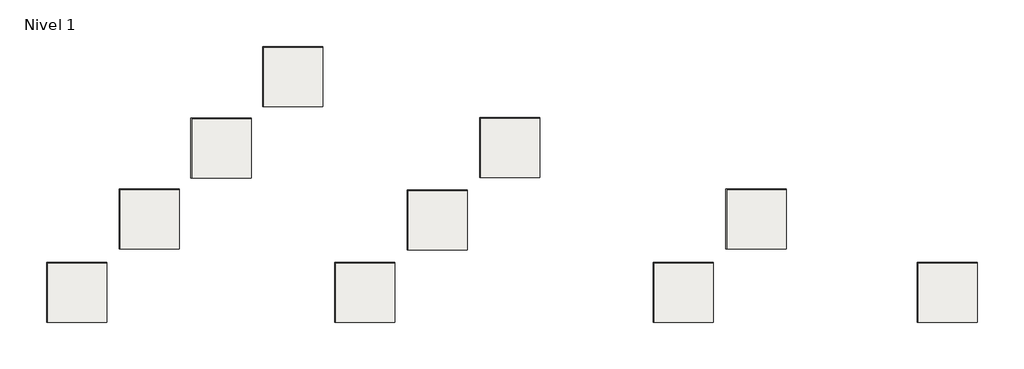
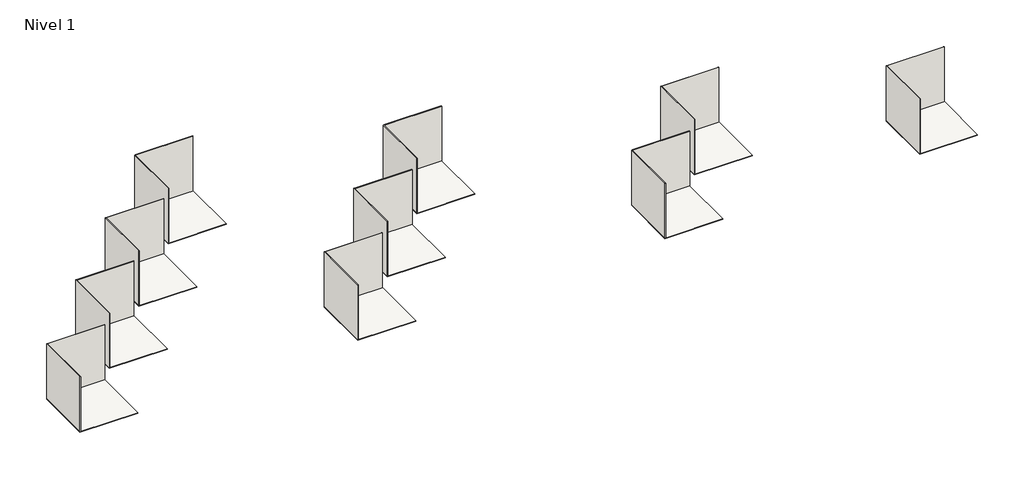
# One storey: 20 walls, 10 slabs.
"""IFC4 building model written with IfcOpenShell, lengths in millimetres."""

from ifc_helpers import new_model, si_unit, frame, origin, origin_with_axes, place, context, project, spatial, polyline, outline, extrude, faceted_brep, element, save

model = new_model("IFC4")

# Units and contexts
model_context = context("Model", 3, world=origin())
ifc_project = project(units=[si_unit("LENGTHUNIT", "METRE", prefix="MILLI")], contexts=[model_context])

# Site, building, storey
site = spatial("IfcSite", under=ifc_project)
building = spatial("IfcBuilding", under=site)
storey = spatial("IfcBuildingStorey", under=building, Name="Nivel 1", Elevation=0.0)

# Slabs
placement = place(None, origin())
element("IfcSlab", 1, ObjectType="Pieza 310BH_Patrón Recto_Mistery_White_Liso", at=placement, inside=storey, context=model_context, shape_type="SweptSolid", body=[
    extrude(outline(polyline([(6563.3191427, 6255.8406123), (6563.3191427, 5255.8406123), (5563.3191427, 5255.8406123), (5563.3191427, 6255.8406123), (6563.3191427, 6255.8406123)])), frame((0.0, 0.0, -9.0), z_axis=(0.0, 0.0, 1.0), x_axis=(1.0, 0.0, 0.0)), (0.0, 0.0, 1.0), 9.0),
])
element("IfcSlab", 2, ObjectType="Pieza 310BH_Patrón Recto_Mistery_Sand_Liso", at=placement, inside=storey, context=model_context, shape_type="SweptSolid", body=[
    extrude(outline(polyline([(7772.2583478, 6477.5842266), (6772.2583478, 6477.5842266), (6772.2583478, 7477.5842266), (7772.2583478, 7477.5842266), (7772.2583478, 6477.5842266)])), frame((0.0, 0.0, -9.0), z_axis=(0.0, 0.0, 1.0), x_axis=(1.0, 0.0, 0.0)), (0.0, 0.0, 1.0), 9.0),
])
element("IfcSlab", 3, ObjectType="Pieza 310BH_Patrón Recto_Mistery_Grey_Liso", at=placement, inside=storey, context=model_context, shape_type="SweptSolid", body=[
    extrude(outline(polyline([(8967.4821988, 8660.0036684), (8967.4821988, 7660.0036684), (7967.4821988, 7660.0036684), (7967.4821988, 8660.0036684), (8967.4821988, 8660.0036684)])), frame((0.0, 0.0, -9.0), z_axis=(0.0, 0.0, 1.0), x_axis=(1.0, 0.0, 0.0)), (0.0, 0.0, 1.0), 9.0),
])
element("IfcSlab", 4, ObjectType="Pieza 310BH_Patrón Recto_Mistery_Blue Stone_Liso", at=placement, inside=storey, context=model_context, shape_type="SweptSolid", body=[
    extrude(outline(polyline([(10162.7060498, 9855.2275194), (10162.7060498, 8855.2275194), (9162.7060498, 8855.2275194), (9162.7060498, 9855.2275194), (10162.7060498, 9855.2275194)])), frame((0.0, 0.0, -9.0), z_axis=(0.0, 0.0, 1.0), x_axis=(1.0, 0.0, 0.0)), (0.0, 0.0, 1.0), 9.0),
])
element("IfcSlab", 5, ObjectType="Pieza 310BH_Patrón Recto_Pietro_Grey_Liso", at=placement, inside=storey, context=model_context, shape_type="SweptSolid", body=[
    extrude(outline(polyline([(11357.9299008, 6255.8406123), (11357.9299008, 5255.8406123), (10357.9299008, 5255.8406123), (10357.9299008, 6255.8406123), (11357.9299008, 6255.8406123)])), frame((0.0, 0.0, -9.0), z_axis=(0.0, 0.0, 1.0), x_axis=(1.0, 0.0, 0.0)), (0.0, 0.0, 1.0), 9.0),
])
element("IfcSlab", 6, ObjectType="Pieza 310BH_Patrón Recto_Pietro_White_Anti-Slip", at=placement, inside=storey, context=model_context, shape_type="SweptSolid", body=[
    extrude(outline(polyline([(12566.8691058, 7464.7798174), (12566.8691058, 6464.7798174), (11566.8691058, 6464.7798174), (11566.8691058, 7464.7798174), (12566.8691058, 7464.7798174)])), frame((0.0, 0.0, -9.0), z_axis=(0.0, 0.0, 1.0), x_axis=(1.0, 0.0, 0.0)), (0.0, 0.0, 1.0), 9.0),
])
element("IfcSlab", 7, ObjectType="Pieza 310BH_Patrón Recto_Tresor_Bali_Anti-Slip", at=placement, inside=storey, context=model_context, shape_type="SweptSolid", body=[
    extrude(outline(polyline([(16663.3191427, 6255.8406123), (16663.3191427, 5255.8406123), (15663.3191427, 5255.8406123), (15663.3191427, 6255.8406123), (16663.3191427, 6255.8406123)])), frame((0.0, 0.0, -9.0), z_axis=(0.0, 0.0, 1.0), x_axis=(1.0, 0.0, 0.0)), (0.0, 0.0, 1.0), 9.0),
])
element("IfcSlab", 8, ObjectType="Pieza 310BH_Patrón Recto_Tresor_Java_Anti-Slip", at=placement, inside=storey, context=model_context, shape_type="SweptSolid", body=[
    extrude(outline(polyline([(17872.2583478, 6477.5842266), (16872.2583478, 6477.5842266), (16872.2583478, 7477.5842266), (17872.2583478, 7477.5842266), (17872.2583478, 6477.5842266)])), frame((0.0, 0.0, -9.0), z_axis=(0.0, 0.0, 1.0), x_axis=(1.0, 0.0, 0.0)), (0.0, 0.0, 1.0), 9.0),
])
element("IfcSlab", 9, ObjectType="Pieza 310BH_Patrón Recto_Tao_Beige_Liso", at=placement, inside=storey, context=model_context, shape_type="SweptSolid", body=[
    extrude(outline(polyline([(21057.9299008, 6255.8406123), (21057.9299008, 5255.8406123), (20057.9299008, 5255.8406123), (20057.9299008, 6255.8406123), (21057.9299008, 6255.8406123)])), frame((0.0, 0.0, -9.0), z_axis=(0.0, 0.0, 1.0), x_axis=(1.0, 0.0, 0.0)), (0.0, 0.0, 1.0), 9.0),
])
element("IfcSlab", 10, ObjectType="Pieza 310BH_Patrón Recto_Pietro_Golden_Liso", at=placement, inside=storey, context=model_context, shape_type="SweptSolid", body=[
    extrude(outline(polyline([(13775.8083108, 8673.7190224), (13775.8083108, 7673.7190224), (12775.8083108, 7673.7190224), (12775.8083108, 8673.7190224), (13775.8083108, 8673.7190224)])), frame((0.0, 0.0, -9.0), z_axis=(0.0, 0.0, 1.0), x_axis=(1.0, 0.0, 0.0)), (0.0, 0.0, 1.0), 9.0),
])

# Walls
element("IfcWall", 11, ObjectType="Pieza 310BH_Patrón Recto_Mistery_Blue Stone_Liso", at=placement, inside=storey, context=model_context, shape_type="Brep", body=[
    faceted_brep([(9171.7060498, 8855.2275194, 0.0), (9171.7060498, 9846.2275194, 0.0), (9171.7060498, 9855.2275194, 0.0), (9171.7060498, 9855.2275194, 1000.0), (9171.7060498, 9846.2275194, 1000.0), (9171.7060498, 8855.2275194, 1000.0), (9162.7060498, 8855.2275194, 0.0), (9162.7060498, 8855.2275194, 1000.0), (9162.7060498, 9855.2275194, 1000.0), (9162.7060498, 9855.2275194, 0.0)], [[[0, 1, 2, 3, 4, 5]], [[6, 7, 8, 9]], [[2, 1, 0, 6, 9]], [[5, 4, 3, 8, 7]], [[0, 5, 7, 6]], [[3, 2, 9, 8]]]),
])
element("IfcWall", 12, ObjectType="Pieza 310BH_Patrón Recto_Mistery_Blue Stone_Liso", at=placement, inside=storey, context=model_context, shape_type="SweptSolid", body=[
    extrude(outline(polyline([(10162.7060498, 9846.2275194), (9171.7060498, 9846.2275194), (9171.7060498, 9855.2275194), (10162.7060498, 9855.2275194), (10162.7060498, 9846.2275194)])), origin_with_axes(), (0.0, 0.0, 1.0), 1000.0),
])
element("IfcWall", 13, ObjectType="Pieza 310BH_Patrón Recto_Mistery_Grey_Liso", at=placement, inside=storey, context=model_context, shape_type="Brep", body=[
    faceted_brep([(7976.4821988, 7660.0036684, 0.0), (7976.4821988, 8651.0036684, 0.0), (7976.4821988, 8660.0036684, 0.0), (7976.4821988, 8660.0036684, 1000.0), (7976.4821988, 8651.0036684, 1000.0), (7976.4821988, 7660.0036684, 1000.0), (7967.4821988, 7660.0036684, 0.0), (7967.4821988, 7660.0036684, 1000.0), (7967.4821988, 8660.0036684, 1000.0), (7967.4821988, 8660.0036684, 0.0)], [[[0, 1, 2, 3, 4, 5]], [[6, 7, 8, 9]], [[2, 1, 0, 6, 9]], [[5, 4, 3, 8, 7]], [[0, 5, 7, 6]], [[3, 2, 9, 8]]]),
])
element("IfcWall", 14, ObjectType="Pieza 310BH_Patrón Recto_Mistery_Grey_Liso", at=placement, inside=storey, context=model_context, shape_type="SweptSolid", body=[
    extrude(outline(polyline([(8967.4821988, 8651.0036684), (7976.4821988, 8651.0036684), (7976.4821988, 8660.0036684), (8967.4821988, 8660.0036684), (8967.4821988, 8651.0036684)])), origin_with_axes(), (0.0, 0.0, 1.0), 1000.0),
])
element("IfcWall", 15, ObjectType="Pieza 310BH_Patrón Recto_Mistery_Sand_Liso", at=placement, inside=storey, context=model_context, shape_type="Brep", body=[
    faceted_brep([(6781.2583478, 6477.5842266, 0.0), (6781.2583478, 7468.5842266, 0.0), (6781.2583478, 7477.5842266, 0.0), (6781.2583478, 7477.5842266, 1000.0), (6781.2583478, 7468.5842266, 1000.0), (6781.2583478, 6477.5842266, 1000.0), (6772.2583478, 6477.5842266, 0.0), (6772.2583478, 6477.5842266, 1000.0), (6772.2583478, 7477.5842266, 1000.0), (6772.2583478, 7477.5842266, 0.0)], [[[0, 1, 2, 3, 4, 5]], [[6, 7, 8, 9]], [[2, 1, 0, 6, 9]], [[5, 4, 3, 8, 7]], [[0, 5, 7, 6]], [[3, 2, 9, 8]]]),
])
element("IfcWall", 16, ObjectType="Pieza 310BH_Patrón Recto_Mistery_Sand_Liso", at=placement, inside=storey, context=model_context, shape_type="SweptSolid", body=[
    extrude(outline(polyline([(7772.2583478, 7468.5842266), (6781.2583478, 7468.5842266), (6781.2583478, 7477.5842266), (7772.2583478, 7477.5842266), (7772.2583478, 7468.5842266)])), origin_with_axes(), (0.0, 0.0, 1.0), 1000.0),
])
element("IfcWall", 17, ObjectType="Pieza 310BH_Patrón Recto_Mistery_White_Liso", at=placement, inside=storey, context=model_context, shape_type="Brep", body=[
    faceted_brep([(5572.3191427, 5255.8406123, 0.0), (5572.3191427, 6246.8406123, 0.0), (5572.3191427, 6255.8406123, 0.0), (5572.3191427, 6255.8406123, 1000.0), (5572.3191427, 6246.8406123, 1000.0), (5572.3191427, 5255.8406123, 1000.0), (5563.3191427, 5255.8406123, 0.0), (5563.3191427, 5255.8406123, 1000.0), (5563.3191427, 6255.8406123, 1000.0), (5563.3191427, 6255.8406123, 0.0)], [[[0, 1, 2, 3, 4, 5]], [[6, 7, 8, 9]], [[2, 1, 0, 6, 9]], [[5, 4, 3, 8, 7]], [[0, 5, 7, 6]], [[3, 2, 9, 8]]]),
])
element("IfcWall", 18, ObjectType="Pieza 310BH_Patrón Recto_Mistery_White_Liso", at=placement, inside=storey, context=model_context, shape_type="SweptSolid", body=[
    extrude(outline(polyline([(6563.3191427, 6246.8406123), (5572.3191427, 6246.8406123), (5572.3191427, 6255.8406123), (6563.3191427, 6255.8406123), (6563.3191427, 6246.8406123)])), origin_with_axes(), (0.0, 0.0, 1.0), 1000.0),
])
element("IfcWall", 19, ObjectType="Pieza 310BH_Patrón Recto_Pietro_Grey_Liso", at=placement, inside=storey, context=model_context, shape_type="Brep", body=[
    faceted_brep([(10366.9299008, 5255.8406123, 0.0), (10366.9299008, 6246.8406123, 0.0), (10366.9299008, 6255.8406123, 0.0), (10366.9299008, 6255.8406123, 1000.0), (10366.9299008, 6246.8406123, 1000.0), (10366.9299008, 5255.8406123, 1000.0), (10357.9299008, 5255.8406123, 0.0), (10357.9299008, 5255.8406123, 1000.0), (10357.9299008, 6255.8406123, 1000.0), (10357.9299008, 6255.8406123, 0.0)], [[[0, 1, 2, 3, 4, 5]], [[6, 7, 8, 9]], [[2, 1, 0, 6, 9]], [[5, 4, 3, 8, 7]], [[0, 5, 7, 6]], [[3, 2, 9, 8]]]),
])
element("IfcWall", 20, ObjectType="Pieza 310BH_Patrón Recto_Pietro_Grey_Liso", at=placement, inside=storey, context=model_context, shape_type="SweptSolid", body=[
    extrude(outline(polyline([(11357.9299008, 6246.8406123), (10366.9299008, 6246.8406123), (10366.9299008, 6255.8406123), (11357.9299008, 6255.8406123), (11357.9299008, 6246.8406123)])), origin_with_axes(), (0.0, 0.0, 1.0), 1000.0),
])
element("IfcWall", 21, ObjectType="Pieza 310BH_Patrón Recto_Pietro_White_Anti-Slip", at=placement, inside=storey, context=model_context, shape_type="Brep", body=[
    faceted_brep([(11575.8691058, 6464.7798174, 0.0), (11575.8691058, 7455.7798174, 0.0), (11575.8691058, 7464.7798174, 0.0), (11575.8691058, 7464.7798174, 1000.0), (11575.8691058, 7455.7798174, 1000.0), (11575.8691058, 6464.7798174, 1000.0), (11566.8691058, 6464.7798174, 0.0), (11566.8691058, 6464.7798174, 1000.0), (11566.8691058, 7464.7798174, 1000.0), (11566.8691058, 7464.7798174, 0.0)], [[[0, 1, 2, 3, 4, 5]], [[6, 7, 8, 9]], [[2, 1, 0, 6, 9]], [[5, 4, 3, 8, 7]], [[0, 5, 7, 6]], [[3, 2, 9, 8]]]),
])
element("IfcWall", 22, ObjectType="Pieza 310BH_Patrón Recto_Pietro_White_Anti-Slip", at=placement, inside=storey, context=model_context, shape_type="SweptSolid", body=[
    extrude(outline(polyline([(12566.8691058, 7455.7798174), (11575.8691058, 7455.7798174), (11575.8691058, 7464.7798174), (12566.8691058, 7464.7798174), (12566.8691058, 7455.7798174)])), origin_with_axes(), (0.0, 0.0, 1.0), 1000.0),
])
element("IfcWall", 23, ObjectType="Pieza 310BH_Patrón Recto_Tresor_Java_Anti-Slip", at=placement, inside=storey, context=model_context, shape_type="Brep", body=[
    faceted_brep([(16881.2583478, 6477.5842266, 0.0), (16881.2583478, 7468.5842266, 0.0), (16881.2583478, 7477.5842266, 0.0), (16881.2583478, 7477.5842266, 1000.0), (16881.2583478, 7468.5842266, 1000.0), (16881.2583478, 6477.5842266, 1000.0), (16872.2583478, 6477.5842266, 0.0), (16872.2583478, 6477.5842266, 1000.0), (16872.2583478, 7477.5842266, 1000.0), (16872.2583478, 7477.5842266, 0.0)], [[[0, 1, 2, 3, 4, 5]], [[6, 7, 8, 9]], [[2, 1, 0, 6, 9]], [[5, 4, 3, 8, 7]], [[0, 5, 7, 6]], [[3, 2, 9, 8]]]),
])
element("IfcWall", 24, ObjectType="Pieza 310BH_Patrón Recto_Tresor_Java_Anti-Slip", at=placement, inside=storey, context=model_context, shape_type="SweptSolid", body=[
    extrude(outline(polyline([(17872.2583478, 7468.5842266), (16881.2583478, 7468.5842266), (16881.2583478, 7477.5842266), (17872.2583478, 7477.5842266), (17872.2583478, 7468.5842266)])), origin_with_axes(), (0.0, 0.0, 1.0), 1000.0),
])
element("IfcWall", 25, ObjectType="Pieza 310BH_Patrón Recto_Tresor_Bali_Anti-Slip", at=placement, inside=storey, context=model_context, shape_type="Brep", body=[
    faceted_brep([(15672.3191427, 5255.8406123, 0.0), (15672.3191427, 6246.8406123, 0.0), (15672.3191427, 6255.8406123, 0.0), (15672.3191427, 6255.8406123, 1000.0), (15672.3191427, 6246.8406123, 1000.0), (15672.3191427, 5255.8406123, 1000.0), (15663.3191427, 5255.8406123, 0.0), (15663.3191427, 5255.8406123, 1000.0), (15663.3191427, 6255.8406123, 1000.0), (15663.3191427, 6255.8406123, 0.0)], [[[0, 1, 2, 3, 4, 5]], [[6, 7, 8, 9]], [[2, 1, 0, 6, 9]], [[5, 4, 3, 8, 7]], [[0, 5, 7, 6]], [[3, 2, 9, 8]]]),
])
element("IfcWall", 26, ObjectType="Pieza 310BH_Patrón Recto_Tresor_Bali_Anti-Slip", at=placement, inside=storey, context=model_context, shape_type="SweptSolid", body=[
    extrude(outline(polyline([(16663.3191427, 6246.8406123), (15672.3191427, 6246.8406123), (15672.3191427, 6255.8406123), (16663.3191427, 6255.8406123), (16663.3191427, 6246.8406123)])), origin_with_axes(), (0.0, 0.0, 1.0), 1000.0),
])
element("IfcWall", 27, ObjectType="Pieza 310BH_Patrón Recto_Tao_Beige_Liso", at=placement, inside=storey, context=model_context, shape_type="Brep", body=[
    faceted_brep([(20066.9299008, 5255.8406123, 0.0), (20066.9299008, 6246.8406123, 0.0), (20066.9299008, 6255.8406123, 0.0), (20066.9299008, 6255.8406123, 1000.0), (20066.9299008, 6246.8406123, 1000.0), (20066.9299008, 5255.8406123, 1000.0), (20057.9299008, 5255.8406123, 0.0), (20057.9299008, 5255.8406123, 1000.0), (20057.9299008, 6255.8406123, 1000.0), (20057.9299008, 6255.8406123, 0.0)], [[[0, 1, 2, 3, 4, 5]], [[6, 7, 8, 9]], [[2, 1, 0, 6, 9]], [[5, 4, 3, 8, 7]], [[0, 5, 7, 6]], [[3, 2, 9, 8]]]),
])
element("IfcWall", 28, ObjectType="Pieza 310BH_Patrón Recto_Tao_Beige_Liso", at=placement, inside=storey, context=model_context, shape_type="SweptSolid", body=[
    extrude(outline(polyline([(21057.9299008, 6246.8406123), (20066.9299008, 6246.8406123), (20066.9299008, 6255.8406123), (21057.9299008, 6255.8406123), (21057.9299008, 6246.8406123)])), origin_with_axes(), (0.0, 0.0, 1.0), 1000.0),
])
element("IfcWall", 29, ObjectType="Pieza 310BH_Patrón Recto_Pietro_Golden_Liso", at=placement, inside=storey, context=model_context, shape_type="Brep", body=[
    faceted_brep([(12784.8083108, 7673.7190224, 0.0), (12784.8083108, 8664.7190224, 0.0), (12784.8083108, 8673.7190224, 0.0), (12784.8083108, 8673.7190224, 1000.0), (12784.8083108, 8664.7190224, 1000.0), (12784.8083108, 7673.7190224, 1000.0), (12775.8083108, 7673.7190224, 0.0), (12775.8083108, 7673.7190224, 1000.0), (12775.8083108, 8673.7190224, 1000.0), (12775.8083108, 8673.7190224, 0.0)], [[[0, 1, 2, 3, 4, 5]], [[6, 7, 8, 9]], [[2, 1, 0, 6, 9]], [[5, 4, 3, 8, 7]], [[0, 5, 7, 6]], [[3, 2, 9, 8]]]),
])
element("IfcWall", 30, ObjectType="Pieza 310BH_Patrón Recto_Pietro_Golden_Liso", at=placement, inside=storey, context=model_context, shape_type="SweptSolid", body=[
    extrude(outline(polyline([(13775.8083108, 8664.7190224), (12784.8083108, 8664.7190224), (12784.8083108, 8673.7190224), (13775.8083108, 8673.7190224), (13775.8083108, 8664.7190224)])), origin_with_axes(), (0.0, 0.0, 1.0), 1000.0),
])

save(model, "model.ifc")
